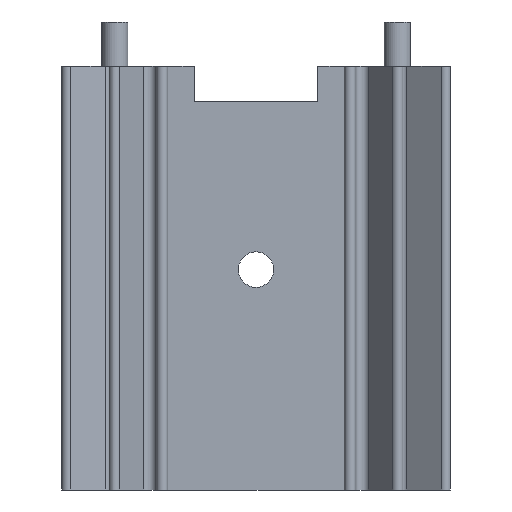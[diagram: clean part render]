
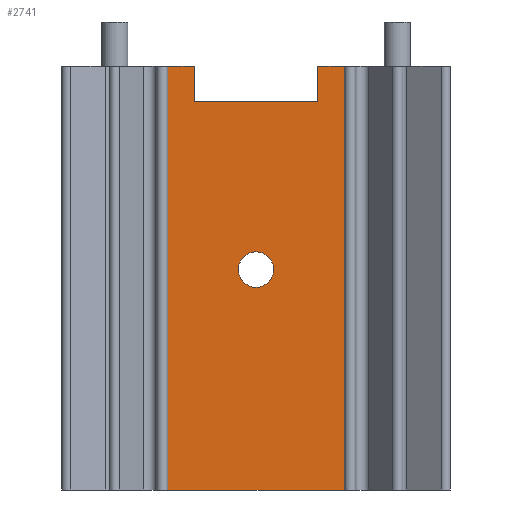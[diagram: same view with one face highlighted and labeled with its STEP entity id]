
A CAD part, front view. The second image highlights one B-rep face of the part: STEP entity #2741.
In plain terms, the highlighted planar face has unit normal (0, -1, 0).
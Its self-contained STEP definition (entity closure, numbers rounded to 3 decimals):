
#42 = CARTESIAN_POINT ( 'NONE',  ( 7.938, -0.787, -38.1 ) ) ;
#56 = ORIENTED_EDGE ( 'NONE', *, *, #1119, .F. ) ;
#121 = VECTOR ( 'NONE', #2267, 1000. ) ;
#124 = DIRECTION ( 'NONE',  ( 0., 0., -1. ) ) ;
#164 = CARTESIAN_POINT ( 'NONE',  ( 0., -0.787, -18.29 ) ) ;
#199 = ORIENTED_EDGE ( 'NONE', *, *, #3027, .F. ) ;
#223 = VECTOR ( 'NONE', #1642, 1000. ) ;
#237 = CARTESIAN_POINT ( 'NONE',  ( 7.938, -0.787, 0. ) ) ;
#430 = CIRCLE ( 'NONE', #2172, 1.59 ) ;
#462 = LINE ( 'NONE', #918, #2900 ) ;
#481 = DIRECTION ( 'NONE',  ( 1., 0., 0. ) ) ;
#533 = VERTEX_POINT ( 'NONE', #892 ) ;
#567 = ORIENTED_EDGE ( 'NONE', *, *, #932, .T. ) ;
#648 = EDGE_LOOP ( 'NONE', ( #2601, #2875, #56, #1999, #567, #199, #1117, #2606 ) ) ;
#736 = LINE ( 'NONE', #864, #121 ) ;
#738 = LINE ( 'NONE', #945, #223 ) ;
#745 = EDGE_CURVE ( 'NONE', #1302, #805, #738, .T. ) ;
#787 = CARTESIAN_POINT ( 'NONE',  ( -7.938, -0.787, 0. ) ) ;
#803 = LINE ( 'NONE', #2525, #1546 ) ;
#805 = VERTEX_POINT ( 'NONE', #1460 ) ;
#808 = VERTEX_POINT ( 'NONE', #42 ) ;
#864 = CARTESIAN_POINT ( 'NONE',  ( -7.938, -0.787, -38.1 ) ) ;
#892 = CARTESIAN_POINT ( 'NONE',  ( -7.938, -0.787, -38.1 ) ) ;
#918 = CARTESIAN_POINT ( 'NONE',  ( 7.938, -0.787, -38.1 ) ) ;
#932 = EDGE_CURVE ( 'NONE', #808, #2464, #2950, .T. ) ;
#945 = CARTESIAN_POINT ( 'NONE',  ( 5.55, -0.787, -38.1 ) ) ;
#950 = CARTESIAN_POINT ( 'NONE',  ( 5.55, -0.787, -3.175 ) ) ;
#1016 = ORIENTED_EDGE ( 'NONE', *, *, #2918, .F. ) ;
#1020 = EDGE_CURVE ( 'NONE', #2779, #1707, #1666, .T. ) ;
#1042 = DIRECTION ( 'NONE',  ( 1., 0., 0. ) ) ;
#1117 = ORIENTED_EDGE ( 'NONE', *, *, #745, .F. ) ;
#1119 = EDGE_CURVE ( 'NONE', #533, #2779, #736, .T. ) ;
#1144 = VERTEX_POINT ( 'NONE', #1573 ) ;
#1213 = EDGE_LOOP ( 'NONE', ( #1016, #1651 ) ) ;
#1238 = CARTESIAN_POINT ( 'NONE',  ( 0., -0.787, -18.29 ) ) ;
#1302 = VERTEX_POINT ( 'NONE', #950 ) ;
#1310 = AXIS2_PLACEMENT_3D ( 'NONE', #1238, #2423, #2865 ) ;
#1460 = CARTESIAN_POINT ( 'NONE',  ( 5.55, -0.787, 0. ) ) ;
#1512 = DIRECTION ( 'NONE',  ( 1., 0., 0. ) ) ;
#1538 = DIRECTION ( 'NONE',  ( 1., 0., 0. ) ) ;
#1546 = VECTOR ( 'NONE', #2538, 1000. ) ;
#1573 = CARTESIAN_POINT ( 'NONE',  ( 0., -0.787, -16.7 ) ) ;
#1575 = DIRECTION ( 'NONE',  ( 0., -1., 0. ) ) ;
#1626 = VECTOR ( 'NONE', #1974, 1000. ) ;
#1642 = DIRECTION ( 'NONE',  ( 0., 0., 1. ) ) ;
#1646 = VECTOR ( 'NONE', #1512, 1000. ) ;
#1651 = ORIENTED_EDGE ( 'NONE', *, *, #1749, .F. ) ;
#1666 = LINE ( 'NONE', #2688, #1910 ) ;
#1707 = VERTEX_POINT ( 'NONE', #2506 ) ;
#1749 = EDGE_CURVE ( 'NONE', #1988, #1144, #430, .T. ) ;
#1860 = EDGE_CURVE ( 'NONE', #1707, #2226, #803, .T. ) ;
#1886 = AXIS2_PLACEMENT_3D ( 'NONE', #2174, #2885, #1959 ) ;
#1892 = EDGE_CURVE ( 'NONE', #533, #808, #462, .T. ) ;
#1910 = VECTOR ( 'NONE', #1538, 1000. ) ;
#1931 = PLANE ( 'NONE',  #1886 ) ;
#1959 = DIRECTION ( 'NONE',  ( 0., 0., -1. ) ) ;
#1974 = DIRECTION ( 'NONE',  ( 0., 0., 1. ) ) ;
#1988 = VERTEX_POINT ( 'NONE', #2366 ) ;
#1999 = ORIENTED_EDGE ( 'NONE', *, *, #1892, .T. ) ;
#2093 = VECTOR ( 'NONE', #1042, 1000. ) ;
#2172 = AXIS2_PLACEMENT_3D ( 'NONE', #164, #1575, #124 ) ;
#2174 = CARTESIAN_POINT ( 'NONE',  ( 7.938, -0.787, -38.1 ) ) ;
#2199 = CARTESIAN_POINT ( 'NONE',  ( 7.938, -0.787, -38.1 ) ) ;
#2205 = FACE_BOUND ( 'NONE', #1213, .T. ) ;
#2226 = VERTEX_POINT ( 'NONE', #2696 ) ;
#2262 = EDGE_CURVE ( 'NONE', #2226, #1302, #2896, .T. ) ;
#2267 = DIRECTION ( 'NONE',  ( 0., 0., 1. ) ) ;
#2366 = CARTESIAN_POINT ( 'NONE',  ( 0., -0.787, -19.88 ) ) ;
#2423 = DIRECTION ( 'NONE',  ( 0., -1., 0. ) ) ;
#2464 = VERTEX_POINT ( 'NONE', #237 ) ;
#2493 = CIRCLE ( 'NONE', #1310, 1.59 ) ;
#2506 = CARTESIAN_POINT ( 'NONE',  ( -5.55, -0.787, 0. ) ) ;
#2525 = CARTESIAN_POINT ( 'NONE',  ( -5.55, -0.787, -38.1 ) ) ;
#2538 = DIRECTION ( 'NONE',  ( 0., 0., -1. ) ) ;
#2601 = ORIENTED_EDGE ( 'NONE', *, *, #1860, .F. ) ;
#2606 = ORIENTED_EDGE ( 'NONE', *, *, #2262, .F. ) ;
#2661 = CARTESIAN_POINT ( 'NONE',  ( 7.938, -0.787, -3.175 ) ) ;
#2669 = CARTESIAN_POINT ( 'NONE',  ( 7.938, -0.787, 0. ) ) ;
#2688 = CARTESIAN_POINT ( 'NONE',  ( 7.938, -0.787, 0. ) ) ;
#2696 = CARTESIAN_POINT ( 'NONE',  ( -5.55, -0.787, -3.175 ) ) ;
#2741 = ADVANCED_FACE ( 'NONE', ( #2205, #2768 ), #1931, .T. ) ;
#2761 = LINE ( 'NONE', #2669, #2093 ) ;
#2768 = FACE_OUTER_BOUND ( 'NONE', #648, .T. ) ;
#2779 = VERTEX_POINT ( 'NONE', #787 ) ;
#2865 = DIRECTION ( 'NONE',  ( 0., 0., -1. ) ) ;
#2875 = ORIENTED_EDGE ( 'NONE', *, *, #1020, .F. ) ;
#2885 = DIRECTION ( 'NONE',  ( 0., -1., 0. ) ) ;
#2896 = LINE ( 'NONE', #2661, #1646 ) ;
#2900 = VECTOR ( 'NONE', #481, 1000. ) ;
#2918 = EDGE_CURVE ( 'NONE', #1144, #1988, #2493, .T. ) ;
#2950 = LINE ( 'NONE', #2199, #1626 ) ;
#3027 = EDGE_CURVE ( 'NONE', #805, #2464, #2761, .T. ) ;
